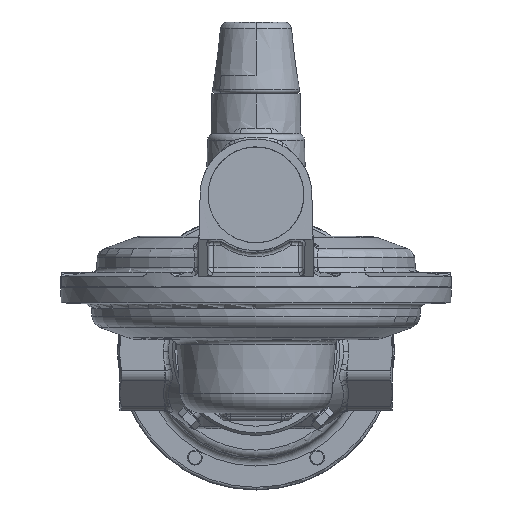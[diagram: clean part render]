
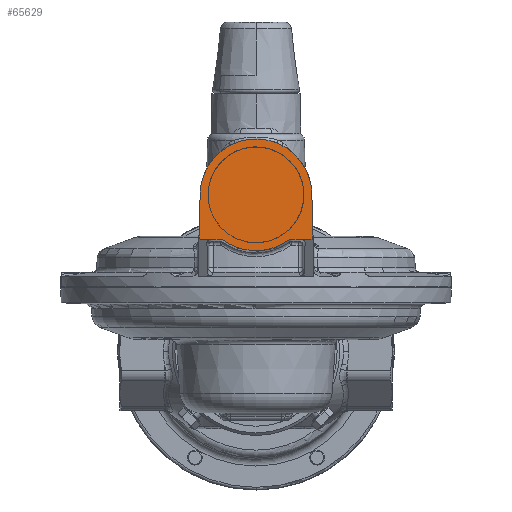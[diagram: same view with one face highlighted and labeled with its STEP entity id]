
A CAD part, left-side view. The second image highlights one B-rep face of the part: STEP entity #65629.
In plain terms, the highlighted planar face has unit normal (-1, 0, 0.018).
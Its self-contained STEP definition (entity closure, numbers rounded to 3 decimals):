
#18412=DIRECTION('',(-0.018,0.026,-1.));
#18413=VECTOR('',#18412,17.18);
#18414=CARTESIAN_POINT('',(-201.88,95.993,
59.548));
#18415=LINE('',#18414,#18413);
#18416=CARTESIAN_POINT('',(-201.88,54.007,
59.549));
#18417=CARTESIAN_POINT('',(-201.86,54.036,
60.639));
#18418=CARTESIAN_POINT('',(-201.823,54.259,
62.784));
#18419=CARTESIAN_POINT('',(-201.768,55.089,
65.934));
#18420=CARTESIAN_POINT('',(-201.716,56.392,
68.913));
#18421=CARTESIAN_POINT('',(-201.668,58.141,
71.661));
#18422=CARTESIAN_POINT('',(-201.625,60.288,
74.102));
#18423=CARTESIAN_POINT('',(-201.589,62.785,
76.185));
#18424=CARTESIAN_POINT('',(-201.56,65.577,
77.861));
#18425=CARTESIAN_POINT('',(-201.538,68.591,
79.086));
#18426=CARTESIAN_POINT('',(-201.525,71.755,
79.832));
#18427=CARTESIAN_POINT('',(-201.521,75.,
80.084));
#18428=CARTESIAN_POINT('',(-201.525,78.245,
79.832));
#18429=CARTESIAN_POINT('',(-201.538,81.41,
79.086));
#18430=CARTESIAN_POINT('',(-201.56,84.423,
77.861));
#18431=CARTESIAN_POINT('',(-201.589,87.215,
76.185));
#18432=CARTESIAN_POINT('',(-201.625,89.712,
74.102));
#18433=CARTESIAN_POINT('',(-201.668,91.86,
71.66));
#18434=CARTESIAN_POINT('',(-201.716,93.608,
68.912));
#18435=CARTESIAN_POINT('',(-201.768,94.911,
65.933));
#18436=CARTESIAN_POINT('',(-201.823,95.741,
62.784));
#18437=CARTESIAN_POINT('',(-201.86,95.964,
60.638));
#18438=CARTESIAN_POINT('',(-201.88,95.993,
59.548));
#18440=DIRECTION('',(0.017,0.026,1.));
#18441=VECTOR('',#18440,17.186);
#18442=CARTESIAN_POINT('',(-202.179,53.557,
42.371));
#18443=LINE('',#18442,#18441);
#18479=CARTESIAN_POINT('',(-202.18,61.508,
42.36));
#18480=CARTESIAN_POINT('',(-202.18,61.649,
42.36));
#18481=CARTESIAN_POINT('',(-202.18,61.926,
42.331));
#18482=CARTESIAN_POINT('',(-202.182,62.331,
42.198));
#18483=CARTESIAN_POINT('',(-202.185,62.566,
42.062));
#18484=CARTESIAN_POINT('',(-202.186,62.678,
41.981));
#18494=DIRECTION('',(0.,1.,0.));
#18495=VECTOR('',#18494,3.497);
#18496=CARTESIAN_POINT('',(-202.18,58.01,
42.36));
#18497=LINE('',#18496,#18495);
#18498=CARTESIAN_POINT('',(-202.173,57.758,
42.345));
#18499=CARTESIAN_POINT('',(-202.173,57.784,
42.35));
#18500=CARTESIAN_POINT('',(-202.183,57.838,
42.348));
#18501=CARTESIAN_POINT('',(-202.179,57.922,
42.359));
#18502=CARTESIAN_POINT('',(-202.18,57.98,
42.36));
#18503=CARTESIAN_POINT('',(-202.18,58.01,
42.36));
#18731=CARTESIAN_POINT('',(-202.172,92.373,
42.314));
#18732=CARTESIAN_POINT('',(-202.173,92.868,
42.297));
#18733=CARTESIAN_POINT('',(-202.184,93.827,
42.329));
#18734=CARTESIAN_POINT('',(-202.177,95.199,
42.348));
#18735=CARTESIAN_POINT('',(-202.183,96.039,
42.375));
#18736=CARTESIAN_POINT('',(-202.183,96.443,
42.377));
#18752=CARTESIAN_POINT('',(-202.179,53.557,
42.371));
#18753=CARTESIAN_POINT('',(-202.179,54.039,
42.371));
#18754=CARTESIAN_POINT('',(-202.179,54.992,
42.368));
#18755=CARTESIAN_POINT('',(-202.182,56.397,
42.383));
#18756=CARTESIAN_POINT('',(-202.173,57.308,
42.345));
#18757=CARTESIAN_POINT('',(-202.173,57.758,
42.345));
#18764=CARTESIAN_POINT('',(-202.179,53.557,
42.371));
#18897=CARTESIAN_POINT('',(-202.18,91.99,
42.36));
#18898=CARTESIAN_POINT('',(-202.18,92.036,
42.36));
#18899=CARTESIAN_POINT('',(-202.179,92.127,
42.356));
#18900=CARTESIAN_POINT('',(-202.184,92.253,
42.337));
#18901=CARTESIAN_POINT('',(-202.172,92.335,
42.324));
#18902=CARTESIAN_POINT('',(-202.172,92.373,
42.314));
#18917=DIRECTION('',(0.,1.,0.));
#18918=VECTOR('',#18917,3.497);
#18919=CARTESIAN_POINT('',(-202.18,88.492,
42.36));
#18920=LINE('',#18919,#18918);
#18928=CARTESIAN_POINT('',(-202.186,87.32,
41.98));
#18929=CARTESIAN_POINT('',(-202.185,87.435,
42.063));
#18930=CARTESIAN_POINT('',(-202.182,87.675,
42.201));
#18931=CARTESIAN_POINT('',(-202.18,88.076,
42.331));
#18932=CARTESIAN_POINT('',(-202.18,88.351,
42.36));
#18933=CARTESIAN_POINT('',(-202.18,88.492,
42.36));
#18935=CARTESIAN_POINT('',(-202.186,62.678,
41.981));
#18936=CARTESIAN_POINT('',(-202.197,63.575,
41.333));
#18937=CARTESIAN_POINT('',(-202.217,65.445,
40.192));
#18938=CARTESIAN_POINT('',(-202.239,68.499,
38.931));
#18939=CARTESIAN_POINT('',(-202.253,71.708,
38.164));
#18940=CARTESIAN_POINT('',(-202.257,75.,
37.905));
#18941=CARTESIAN_POINT('',(-202.253,78.292,
38.164));
#18942=CARTESIAN_POINT('',(-202.239,81.5,
38.931));
#18943=CARTESIAN_POINT('',(-202.217,84.555,
40.193));
#18944=CARTESIAN_POINT('',(-202.197,86.424,
41.332));
#18945=CARTESIAN_POINT('',(-202.186,87.32,
41.98));
#30601=VERTEX_POINT('',#18764);
#30602=CARTESIAN_POINT('',(-201.88,54.007,
59.549));
#30603=VERTEX_POINT('',#30602);
#31049=CARTESIAN_POINT('',(-201.88,95.993,
59.548));
#31050=VERTEX_POINT('',#31049);
#31051=CARTESIAN_POINT('',(-202.183,96.443,
42.377));
#31052=VERTEX_POINT('',#31051);
#31071=VERTEX_POINT('',#18935);
#31072=VERTEX_POINT('',#18945);
#31073=VERTEX_POINT('',#18933);
#31074=CARTESIAN_POINT('',(-202.18,91.99,
42.36));
#31075=VERTEX_POINT('',#31074);
#31076=VERTEX_POINT('',#18902);
#31077=VERTEX_POINT('',#18757);
#31078=VERTEX_POINT('',#18503);
#31079=CARTESIAN_POINT('',(-202.18,61.508,
42.36));
#31080=VERTEX_POINT('',#31079);
#65601=CARTESIAN_POINT('',(-201.889,75.,58.996));
#65602=DIRECTION('',(1.,0.,-0.017));
#65603=DIRECTION('',(0.,1.,0.));
#65604=AXIS2_PLACEMENT_3D('',#65601,#65602,#65603);
#65605=PLANE('',#65604);
#65607=ORIENTED_EDGE('',*,*,#65606,.T.);
#65609=ORIENTED_EDGE('',*,*,#65608,.T.);
#65611=ORIENTED_EDGE('',*,*,#65610,.T.);
#65613=ORIENTED_EDGE('',*,*,#65612,.T.);
#65615=ORIENTED_EDGE('',*,*,#65614,.T.);
#65617=ORIENTED_EDGE('',*,*,#65616,.T.);
#65618=ORIENTED_EDGE('',*,*,#62756,.F.);
#65619=ORIENTED_EDGE('',*,*,#62734,.F.);
#65620=ORIENTED_EDGE('',*,*,#61518,.F.);
#65622=ORIENTED_EDGE('',*,*,#65621,.T.);
#65624=ORIENTED_EDGE('',*,*,#65623,.T.);
#65626=ORIENTED_EDGE('',*,*,#65625,.T.);
#65627=EDGE_LOOP('',(#65607,#65609,#65611,#65613,#65615,#65617,#65618,#65619,
#65620,#65622,#65624,#65626));
#65628=FACE_OUTER_BOUND('',#65627,.F.);
#65629=ADVANCED_FACE('',(#65628),#65605,.F.);
#18439=B_SPLINE_CURVE_WITH_KNOTS('',3,(#18416,#18417,#18418,#18419,#18420,
#18421,#18422,#18423,#18424,#18425,#18426,#18427,#18428,#18429,#18430,#18431,
#18432,#18433,#18434,#18435,#18436,#18437,#18438),.UNSPECIFIED.,.F.,.F.,(4,1,1,
1,1,1,1,1,1,1,1,1,1,1,1,1,1,1,1,1,4),(0.,0.05,0.1,0.15,0.2,0.25,
0.3,0.35,0.4,0.45,0.5,0.55,0.6,0.65,0.7,0.75,0.8,0.85,
0.9,0.95,1.),.UNSPECIFIED.);
#18485=B_SPLINE_CURVE_WITH_KNOTS('',3,(#18479,#18480,#18481,#18482,#18483,
#18484),.UNSPECIFIED.,.F.,.F.,(4,1,1,4),(0.,0.333,
0.667,1.),.UNSPECIFIED.);
#18504=B_SPLINE_CURVE_WITH_KNOTS('',3,(#18498,#18499,#18500,#18501,#18502,
#18503),.UNSPECIFIED.,.F.,.F.,(4,1,1,4),(0.,0.333,
0.667,1.),.UNSPECIFIED.);
#18737=B_SPLINE_CURVE_WITH_KNOTS('',3,(#18731,#18732,#18733,#18734,#18735,
#18736),.UNSPECIFIED.,.F.,.F.,(4,1,1,4),(0.,0.333,
0.667,1.),.UNSPECIFIED.);
#18758=B_SPLINE_CURVE_WITH_KNOTS('',3,(#18752,#18753,#18754,#18755,#18756,
#18757),.UNSPECIFIED.,.F.,.F.,(4,1,1,4),(0.,0.333,
0.667,1.),.UNSPECIFIED.);
#18903=B_SPLINE_CURVE_WITH_KNOTS('',3,(#18897,#18898,#18899,#18900,#18901,
#18902),.UNSPECIFIED.,.F.,.F.,(4,1,1,4),(0.,0.333,
0.667,1.),.UNSPECIFIED.);
#18934=B_SPLINE_CURVE_WITH_KNOTS('',3,(#18928,#18929,#18930,#18931,#18932,
#18933),.UNSPECIFIED.,.F.,.F.,(4,1,1,4),(0.,0.333,
0.667,1.),.UNSPECIFIED.);
#18946=B_SPLINE_CURVE_WITH_KNOTS('',3,(#18935,#18936,#18937,#18938,#18939,
#18940,#18941,#18942,#18943,#18944,#18945),.UNSPECIFIED.,.F.,.F.,(4,1,1,1,1,1,1,
1,4),(0.,0.125,0.25,0.375,0.5,0.625,0.75,0.875,1.),
.UNSPECIFIED.);
#61518=EDGE_CURVE('',#30601,#30603,#18443,.T.);
#62734=EDGE_CURVE('',#30603,#31050,#18439,.T.);
#62756=EDGE_CURVE('',#31050,#31052,#18415,.T.);
#65606=EDGE_CURVE('',#31080,#31071,#18485,.T.);
#65608=EDGE_CURVE('',#31071,#31072,#18946,.T.);
#65610=EDGE_CURVE('',#31072,#31073,#18934,.T.);
#65612=EDGE_CURVE('',#31073,#31075,#18920,.T.);
#65614=EDGE_CURVE('',#31075,#31076,#18903,.T.);
#65616=EDGE_CURVE('',#31076,#31052,#18737,.T.);
#65621=EDGE_CURVE('',#30601,#31077,#18758,.T.);
#65623=EDGE_CURVE('',#31077,#31078,#18504,.T.);
#65625=EDGE_CURVE('',#31078,#31080,#18497,.T.);
